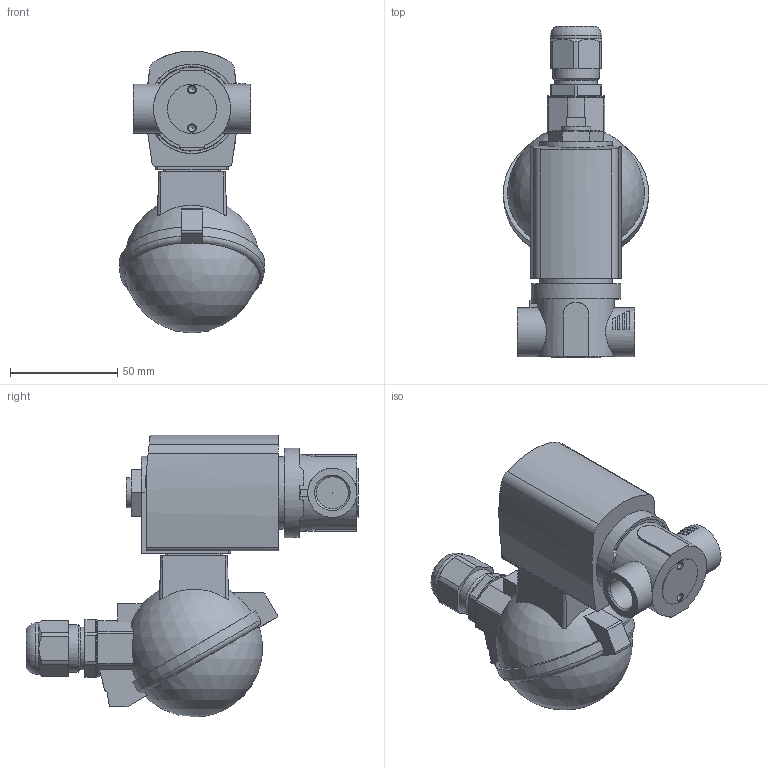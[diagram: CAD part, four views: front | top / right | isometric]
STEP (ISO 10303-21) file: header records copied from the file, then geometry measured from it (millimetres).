
FILE_DESCRIPTION(/* description */ ('STEP AP214'),/* implementation_level */ '2;1');
FILE_NAME(/* name */ '6027-A-3-PTFE___FKM-MS-G_3_8-42-230___UC',/* time_stamp */ '2024-03-21T06:49:46+01:00',/* author */ ('License CC BY-ND 4.0'),/* organization */ ('CADENAS'),/* preprocessor_version */ 'ST-DEVELOPER v19.3',/* originating_system */ 'PARTsolutions',/* authorisation */ ' ');
FILE_SCHEMA (('AUTOMOTIVE_DESIGN {1 0 10303 214 3 1 1}'));
Length unit declared in the file: millimetre
Products named in the file (3): 6027-A-3-PTFE / FKM-MS-G 3/8-42-230 / UC; AC10ex-42ATEXKLK_MB05Plan-Coil; V027-Gehaeuse G 3/8 1 1 MS G55 2 1
Assembly tree (2 placements, depth 2):
  6027-A-3-PTFE / FKM-MS-G 3/8-42-230 / UC
    AC10ex-42ATEXKLK_MB05Plan-Coil
    V027-Gehaeuse G 3/8 1 1 MS G55 2 1
Bounding box: 67.86 x 155.1 x 131.7 mm (x, y, z)
Volume: 355706.8 mm3; surface area: 50037 mm2
Topology: 2 solids, 2 shells, 218 faces, 561 edges, 366 vertices
Faces by surface type: plane 121, cylinder 65, cone 25, sphere 4, torus 3
Full cylindrical faces by diameter (mm): 0.2 x1, 3.242 x3, 14 x2, 14.95 x2, 17.294 x1, 20 x1, 22 x1, 23 x4, 24 x1, 27 x1, 34 x1, 36 x1, 39 x1, 39.5 x1, 41.8 x1
Entity records: 7565 total; most frequent: CARTESIAN_POINT 1313, DIRECTION 1117, ORIENTED_EDGE 1024, EDGE_CURVE 512, AXIS2_PLACEMENT_3D 437, VERTEX_POINT 352, FACE_BOUND 274, EDGE_LOOP 272
